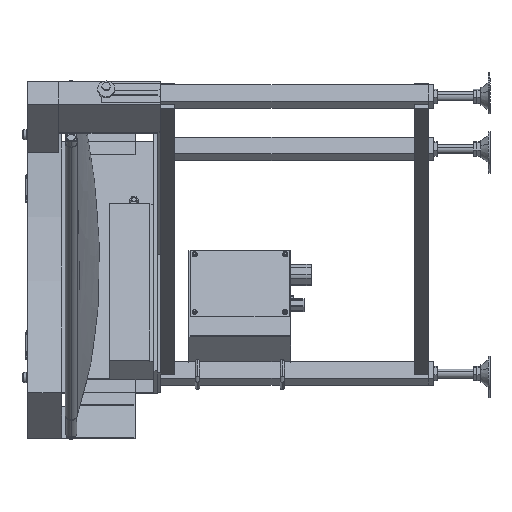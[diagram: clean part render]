
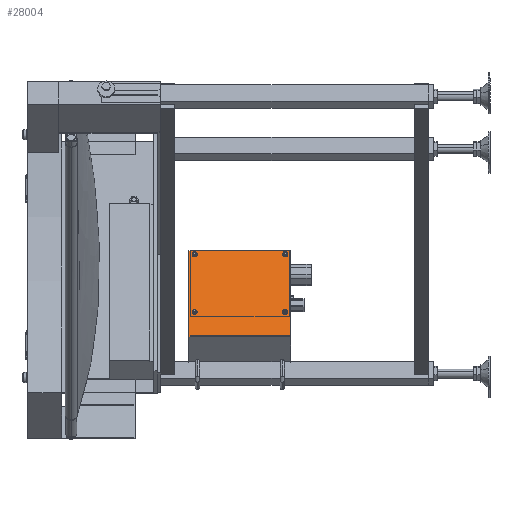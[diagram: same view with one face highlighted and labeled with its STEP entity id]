
A CAD part, left-side view. The second image highlights one B-rep face of the part: STEP entity #28004.
In plain terms, the highlighted planar face has unit normal (-0.924, 0, 0.383).
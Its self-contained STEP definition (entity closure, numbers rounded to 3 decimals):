
#469 = AXIS2_PLACEMENT_3D ( 'NONE', #33509, #45313, #11595 ) ;
#1290 = EDGE_LOOP ( 'NONE', ( #2956, #35197 ) ) ;
#1427 = EDGE_LOOP ( 'NONE', ( #45422, #6824, #32798, #27739 ) ) ;
#2176 = DIRECTION ( 'NONE',  ( -0.924, 0., 0.383 ) ) ;
#2956 = ORIENTED_EDGE ( 'NONE', *, *, #16391, .T. ) ;
#3427 = EDGE_CURVE ( 'NONE', #23891, #27836, #36257, .T. ) ;
#4010 = CIRCLE ( 'NONE', #7761, 4.5 ) ;
#4156 = CARTESIAN_POINT ( 'NONE',  ( 572.488, -562.424, -452.528 ) ) ;
#4300 = CARTESIAN_POINT ( 'NONE',  ( 590.665, -387.5, -408.644 ) ) ;
#5127 = AXIS2_PLACEMENT_3D ( 'NONE', #44100, #22552, #18322 ) ;
#5530 = FACE_BOUND ( 'NONE', #26962, .T. ) ;
#5858 = DIRECTION ( 'NONE',  ( 0.383, 0., 0.924 ) ) ;
#6226 = VERTEX_POINT ( 'NONE', #15999 ) ;
#6477 = VERTEX_POINT ( 'NONE', #17098 ) ;
#6768 = EDGE_CURVE ( 'NONE', #6226, #6477, #19842, .T. ) ;
#6824 = ORIENTED_EDGE ( 'NONE', *, *, #37125, .F. ) ;
#7325 = EDGE_CURVE ( 'NONE', #7610, #41847, #29790, .T. ) ;
#7409 = DIRECTION ( 'NONE',  ( -0.383, 0., -0.924 ) ) ;
#7610 = VERTEX_POINT ( 'NONE', #19373 ) ;
#7761 = AXIS2_PLACEMENT_3D ( 'NONE', #31851, #42538, #46743 ) ;
#8092 = LINE ( 'NONE', #13316, #27837 ) ;
#8579 = DIRECTION ( 'NONE',  ( -0.383, 0., -0.924 ) ) ;
#9764 = CARTESIAN_POINT ( 'NONE',  ( 634.483, -387.5, -302.86 ) ) ;
#9886 = CIRCLE ( 'NONE', #469, 4.5 ) ;
#10608 = CIRCLE ( 'NONE', #47425, 4.5 ) ;
#11393 = FACE_BOUND ( 'NONE', #43882, .T. ) ;
#11595 = DIRECTION ( 'NONE',  ( -0.383, 0., -0.924 ) ) ;
#11782 = AXIS2_PLACEMENT_3D ( 'NONE', #42558, #2176, #5858 ) ;
#12070 = ORIENTED_EDGE ( 'NONE', *, *, #35059, .T. ) ;
#12939 = CARTESIAN_POINT ( 'NONE',  ( 588.943, -227.5, -412.802 ) ) ;
#13316 = CARTESIAN_POINT ( 'NONE',  ( 635.631, -433.7, -300.088 ) ) ;
#13367 = ORIENTED_EDGE ( 'NONE', *, *, #14137, .T. ) ;
#14137 = EDGE_CURVE ( 'NONE', #14227, #27037, #25628, .T. ) ;
#14227 = VERTEX_POINT ( 'NONE', #29404 ) ;
#14546 = EDGE_CURVE ( 'NONE', #41847, #7610, #10608, .T. ) ;
#14971 = EDGE_CURVE ( 'NONE', #27037, #14227, #17912, .T. ) ;
#15298 = DIRECTION ( 'NONE',  ( 0.383, 0., 0.924 ) ) ;
#15597 = VERTEX_POINT ( 'NONE', #12939 ) ;
#15999 = CARTESIAN_POINT ( 'NONE',  ( 572.488, -397.5, -452.528 ) ) ;
#16384 = EDGE_CURVE ( 'NONE', #6477, #40861, #8092, .T. ) ;
#16391 = EDGE_CURVE ( 'NONE', #27836, #23891, #4010, .T. ) ;
#17098 = CARTESIAN_POINT ( 'NONE',  ( 635.631, -397.5, -300.088 ) ) ;
#17514 = DIRECTION ( 'NONE',  ( -0.383, 0., -0.924 ) ) ;
#17912 = CIRCLE ( 'NONE', #42171, 4.5 ) ;
#18322 = DIRECTION ( 'NONE',  ( -0.383, 0., -0.924 ) ) ;
#19373 = CARTESIAN_POINT ( 'NONE',  ( 631.039, -387.5, -311.175 ) ) ;
#19842 = LINE ( 'NONE', #44011, #25702 ) ;
#20160 = CARTESIAN_POINT ( 'NONE',  ( 631.039, -227.5, -311.175 ) ) ;
#20729 = AXIS2_PLACEMENT_3D ( 'NONE', #23169, #34857, #8579 ) ;
#21029 = CARTESIAN_POINT ( 'NONE',  ( 635.631, -217.5, -300.088 ) ) ;
#21421 = DIRECTION ( 'NONE',  ( 0.383, 0., 0.924 ) ) ;
#21503 = DIRECTION ( 'NONE',  ( 0.924, 0., -0.383 ) ) ;
#21581 = AXIS2_PLACEMENT_3D ( 'NONE', #24998, #42983, #17514 ) ;
#21742 = CARTESIAN_POINT ( 'NONE',  ( 587.795, -217.5, -415.573 ) ) ;
#22552 = DIRECTION ( 'NONE',  ( 0.924, 0., -0.383 ) ) ;
#23068 = AXIS2_PLACEMENT_3D ( 'NONE', #29672, #21503, #7409 ) ;
#23169 = CARTESIAN_POINT ( 'NONE',  ( 590.665, -227.5, -408.644 ) ) ;
#23603 = CARTESIAN_POINT ( 'NONE',  ( 572.488, -217.5, -452.528 ) ) ;
#23891 = VERTEX_POINT ( 'NONE', #44368 ) ;
#24052 = ORIENTED_EDGE ( 'NONE', *, *, #7325, .T. ) ;
#24998 = CARTESIAN_POINT ( 'NONE',  ( 590.665, -387.5, -408.644 ) ) ;
#25346 = VECTOR ( 'NONE', #30183, 1000. ) ;
#25628 = CIRCLE ( 'NONE', #21581, 4.5 ) ;
#25702 = VECTOR ( 'NONE', #15298, 1000. ) ;
#26962 = EDGE_LOOP ( 'NONE', ( #30986, #13367 ) ) ;
#27037 = VERTEX_POINT ( 'NONE', #31555 ) ;
#27417 = DIRECTION ( 'NONE',  ( 0.924, 0., -0.383 ) ) ;
#27739 = ORIENTED_EDGE ( 'NONE', *, *, #6768, .T. ) ;
#27836 = VERTEX_POINT ( 'NONE', #20160 ) ;
#27837 = VECTOR ( 'NONE', #39283, 1000. ) ;
#28004 = ADVANCED_FACE ( 'NONE', ( #40991, #5530, #11393, #28793, #30554 ), #35891, .T. ) ;
#28268 = ORIENTED_EDGE ( 'NONE', *, *, #14546, .T. ) ;
#28793 = FACE_BOUND ( 'NONE', #43114, .T. ) ;
#29036 = CARTESIAN_POINT ( 'NONE',  ( 592.388, -227.5, -404.487 ) ) ;
#29404 = CARTESIAN_POINT ( 'NONE',  ( 592.388, -387.5, -404.487 ) ) ;
#29611 = LINE ( 'NONE', #21742, #37126 ) ;
#29672 = CARTESIAN_POINT ( 'NONE',  ( 632.761, -387.5, -307.017 ) ) ;
#29790 = CIRCLE ( 'NONE', #23068, 4.5 ) ;
#30183 = DIRECTION ( 'NONE',  ( 0., 1., 0. ) ) ;
#30554 = FACE_BOUND ( 'NONE', #1290, .T. ) ;
#30986 = ORIENTED_EDGE ( 'NONE', *, *, #14971, .T. ) ;
#31555 = CARTESIAN_POINT ( 'NONE',  ( 588.943, -387.5, -412.802 ) ) ;
#31851 = CARTESIAN_POINT ( 'NONE',  ( 632.761, -227.5, -307.017 ) ) ;
#31992 = EDGE_CURVE ( 'NONE', #34911, #15597, #9886, .T. ) ;
#32798 = ORIENTED_EDGE ( 'NONE', *, *, #34144, .F. ) ;
#32919 = ORIENTED_EDGE ( 'NONE', *, *, #31992, .T. ) ;
#33509 = CARTESIAN_POINT ( 'NONE',  ( 590.665, -227.5, -408.644 ) ) ;
#34144 = EDGE_CURVE ( 'NONE', #6226, #35300, #39850, .T. ) ;
#34857 = DIRECTION ( 'NONE',  ( 0.924, 0., -0.383 ) ) ;
#34883 = DIRECTION ( 'NONE',  ( -0.383, 0., -0.924 ) ) ;
#34911 = VERTEX_POINT ( 'NONE', #29036 ) ;
#35059 = EDGE_CURVE ( 'NONE', #15597, #34911, #39190, .T. ) ;
#35197 = ORIENTED_EDGE ( 'NONE', *, *, #3427, .T. ) ;
#35300 = VERTEX_POINT ( 'NONE', #23603 ) ;
#35891 = PLANE ( 'NONE',  #11782 ) ;
#36257 = CIRCLE ( 'NONE', #5127, 4.5 ) ;
#37125 = EDGE_CURVE ( 'NONE', #35300, #40861, #29611, .T. ) ;
#37126 = VECTOR ( 'NONE', #21421, 1000. ) ;
#39190 = CIRCLE ( 'NONE', #20729, 4.5 ) ;
#39283 = DIRECTION ( 'NONE',  ( 0., 1., 0. ) ) ;
#39850 = LINE ( 'NONE', #4156, #25346 ) ;
#40677 = DIRECTION ( 'NONE',  ( 0.924, 0., -0.383 ) ) ;
#40861 = VERTEX_POINT ( 'NONE', #21029 ) ;
#40991 = FACE_OUTER_BOUND ( 'NONE', #1427, .T. ) ;
#41847 = VERTEX_POINT ( 'NONE', #9764 ) ;
#42171 = AXIS2_PLACEMENT_3D ( 'NONE', #4300, #40677, #44538 ) ;
#42538 = DIRECTION ( 'NONE',  ( 0.924, 0., -0.383 ) ) ;
#42558 = CARTESIAN_POINT ( 'NONE',  ( 587.795, -397.5, -415.573 ) ) ;
#42983 = DIRECTION ( 'NONE',  ( 0.924, 0., -0.383 ) ) ;
#43114 = EDGE_LOOP ( 'NONE', ( #12070, #32919 ) ) ;
#43882 = EDGE_LOOP ( 'NONE', ( #24052, #28268 ) ) ;
#44011 = CARTESIAN_POINT ( 'NONE',  ( 587.795, -397.5, -415.573 ) ) ;
#44100 = CARTESIAN_POINT ( 'NONE',  ( 632.761, -227.5, -307.017 ) ) ;
#44368 = CARTESIAN_POINT ( 'NONE',  ( 634.483, -227.5, -302.86 ) ) ;
#44538 = DIRECTION ( 'NONE',  ( -0.383, 0., -0.924 ) ) ;
#45313 = DIRECTION ( 'NONE',  ( 0.924, 0., -0.383 ) ) ;
#45422 = ORIENTED_EDGE ( 'NONE', *, *, #16384, .T. ) ;
#46206 = CARTESIAN_POINT ( 'NONE',  ( 632.761, -387.5, -307.017 ) ) ;
#46743 = DIRECTION ( 'NONE',  ( -0.383, 0., -0.924 ) ) ;
#47425 = AXIS2_PLACEMENT_3D ( 'NONE', #46206, #27417, #34883 ) ;
